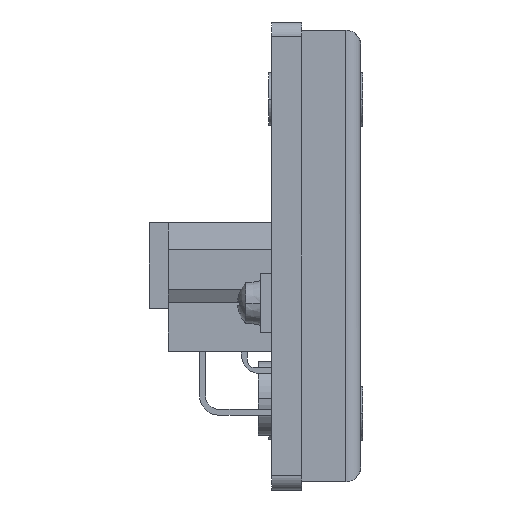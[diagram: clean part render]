
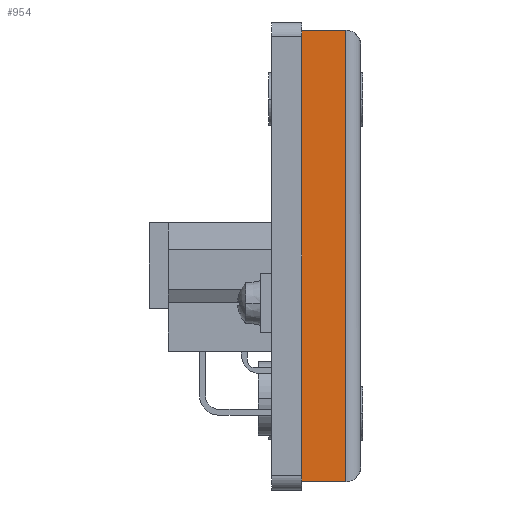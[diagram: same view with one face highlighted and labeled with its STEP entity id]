
A CAD part, left-side view. The second image highlights one B-rep face of the part: STEP entity #954.
In plain terms, the highlighted planar face has unit normal (-1, 0, 0).
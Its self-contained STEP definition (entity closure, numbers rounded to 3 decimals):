
#954 = ADVANCED_FACE( '', ( #2902 ), #2903, .F. );
#2902 = FACE_OUTER_BOUND( '', #4898, .T. );
#2903 = PLANE( '', #4899 );
#4898 = EDGE_LOOP( '', ( #12372, #12373, #12374, #12375 ) );
#4899 = AXIS2_PLACEMENT_3D( '', #12376, #12377, #12378 );
#12372 = ORIENTED_EDGE( '', *, *, #15004, .T. );
#12373 = ORIENTED_EDGE( '', *, *, #15011, .T. );
#12374 = ORIENTED_EDGE( '', *, *, #15007, .T. );
#12375 = ORIENTED_EDGE( '', *, *, #15010, .F. );
#12376 = CARTESIAN_POINT( '', ( -80.38, 2., 31.5 ) );
#12377 = DIRECTION( '', ( 1., 0., 0. ) );
#12378 = DIRECTION( '', ( 0., -1., 0. ) );
#15004 = EDGE_CURVE( '', #15535, #19215, #19216, .T. );
#15007 = EDGE_CURVE( '', #19220, #15555, #19221, .T. );
#15010 = EDGE_CURVE( '', #15535, #15555, #19225, .T. );
#15011 = EDGE_CURVE( '', #19215, #19220, #19226, .T. );
#15535 = VERTEX_POINT( '', #19729 );
#15555 = VERTEX_POINT( '', #19761 );
#19215 = VERTEX_POINT( '', #25373 );
#19216 = LINE( '', #25374, #25375 );
#19220 = VERTEX_POINT( '', #25381 );
#19221 = LINE( '', #25382, #25383 );
#19225 = LINE( '', #25389, #25390 );
#19226 = LINE( '', #25391, #25392 );
#19729 = CARTESIAN_POINT( '', ( -80.38, 2., 30.38 ) );
#19761 = CARTESIAN_POINT( '', ( -80.38, 2., -30.38 ) );
#25373 = CARTESIAN_POINT( '', ( -80.38, 7.93, 30.38 ) );
#25374 = CARTESIAN_POINT( '', ( -80.38, 2., 30.38 ) );
#25375 = VECTOR( '', #28634, 1. );
#25381 = CARTESIAN_POINT( '', ( -80.38, 7.93, -30.38 ) );
#25382 = CARTESIAN_POINT( '', ( -80.38, 4.965, -30.38 ) );
#25383 = VECTOR( '', #28637, 1. );
#25389 = CARTESIAN_POINT( '', ( -80.38, 2., 31.5 ) );
#25390 = VECTOR( '', #28640, 1. );
#25391 = CARTESIAN_POINT( '', ( -80.38, 7.93, 31.5 ) );
#25392 = VECTOR( '', #28641, 1. );
#28634 = DIRECTION( '', ( 0., 1., 0. ) );
#28637 = DIRECTION( '', ( 0., -1., 0. ) );
#28640 = DIRECTION( '', ( 0., 0., -1. ) );
#28641 = DIRECTION( '', ( 0., 0., -1. ) );
